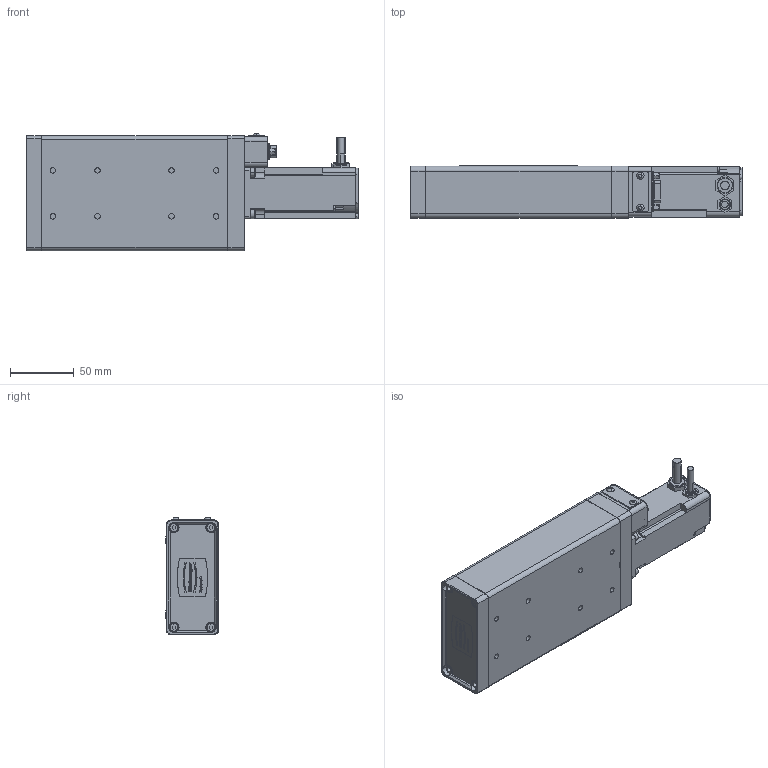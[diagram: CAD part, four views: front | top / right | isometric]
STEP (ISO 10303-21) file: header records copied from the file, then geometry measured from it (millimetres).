
FILE_DESCRIPTION((''),'2;1');
FILE_NAME('STM_LTP90_552284_ASM','2026-04-23T14:07:48',('profile'),(''),'CREO PARAMETRIC BY PTC INC, 2025123','CREO PARAMETRIC BY PTC INC, 2025123','');
FILE_SCHEMA(('AP242_MANAGED_MODEL_BASED_3D_ENGINEERING_MIM_LF { 1 0 10303 442 1 1 4 }'));
Length unit declared in the file: millimetre
Products named in the file (7): STM_GRUND_552244; AL_ALUMINIUM; STM_SCHIE_552245; STM_ABDEC_552250; STM_LTP90_552284_ASM
Assembly tree (3 placements, depth 2):
  AL_ALUMINIUM
  AL_ALUMINIUM
  AL_ALUMINIUM
  STM_LTP90_552284_ASM
    STM_GRUND_552244
    STM_SCHIE_552245
    STM_ABDEC_552250
Bounding box: 260.1 x 41.3 x 92.15 mm (x, y, z)
Volume: 665561.9 mm3; surface area: 121271.1 mm2
Topology: 3 solids, 4 shells, 1164 faces, 2866 edges, 1807 vertices
Faces by surface type: plane 615, cylinder 290, cone 112, extrusion 105, torus 20, sphere 18, bspline 4
Entity records: 52995 total; most frequent: CARTESIAN_POINT 11702, ORIENTED_EDGE 5688, DIRECTION 5625, PRESENTATION_STYLE_ASSIGNMENT 3239, STYLED_ITEM 2884, CURVE_STYLE 2881, EDGE_CURVE 2844, VECTOR 1989
